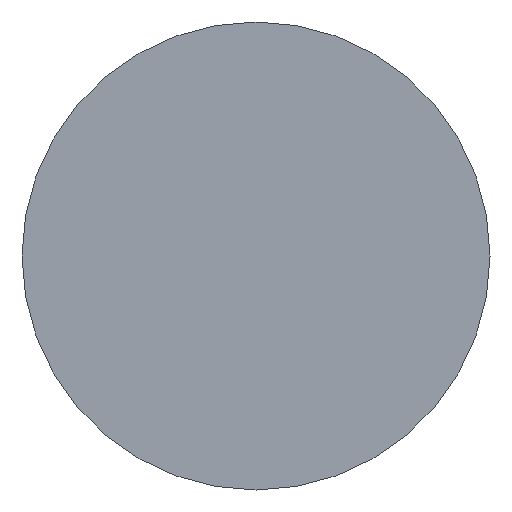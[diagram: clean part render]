
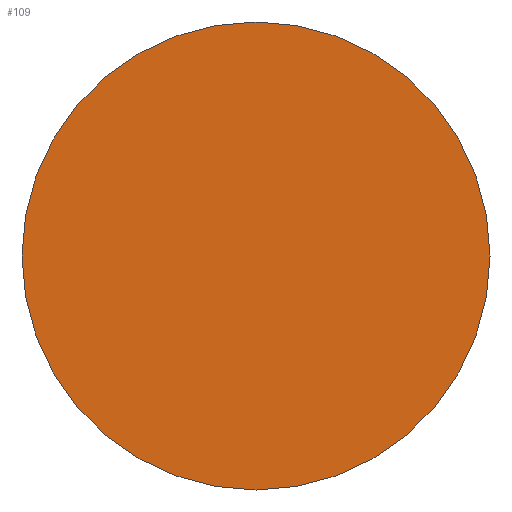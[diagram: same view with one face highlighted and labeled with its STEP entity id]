
A CAD part, front view. The second image highlights one B-rep face of the part: STEP entity #109.
In plain terms, the highlighted planar face has unit normal (0, -1, 0).
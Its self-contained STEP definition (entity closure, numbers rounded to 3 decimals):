
#31 = CYLINDRICAL_SURFACE('',#32,10.);
#32 = AXIS2_PLACEMENT_3D('',#33,#34,#35);
#33 = CARTESIAN_POINT('',(278.258,-138.913,15.828
    ));
#34 = DIRECTION('',(0.,1.,0.));
#35 = DIRECTION('',(0.,-0.,1.));
#56 = VERTEX_POINT('',#57);
#57 = CARTESIAN_POINT('',(278.258,-138.913,25.828
    ));
#78 = EDGE_CURVE('',#56,#56,#79,.T.);
#79 = SURFACE_CURVE('',#80,(#85,#92),.PCURVE_S1.);
#80 = CIRCLE('',#81,10.);
#81 = AXIS2_PLACEMENT_3D('',#82,#83,#84);
#82 = CARTESIAN_POINT('',(278.258,-138.913,15.828
    ));
#83 = DIRECTION('',(0.,1.,0.));
#84 = DIRECTION('',(0.,-0.,1.));
#85 = PCURVE('',#31,#86);
#86 = DEFINITIONAL_REPRESENTATION('',(#87),#91);
#87 = LINE('',#88,#89);
#88 = CARTESIAN_POINT('',(0.,0.));
#89 = VECTOR('',#90,1.);
#90 = DIRECTION('',(1.,0.));
#91 = ( GEOMETRIC_REPRESENTATION_CONTEXT(2) 
PARAMETRIC_REPRESENTATION_CONTEXT() REPRESENTATION_CONTEXT('2D SPACE',''
  ) );
#92 = PCURVE('',#93,#98);
#93 = PLANE('',#94);
#94 = AXIS2_PLACEMENT_3D('',#95,#96,#97);
#95 = CARTESIAN_POINT('',(278.258,-138.913,15.828
    ));
#96 = DIRECTION('',(0.,1.,0.));
#97 = DIRECTION('',(0.,-0.,1.));
#98 = DEFINITIONAL_REPRESENTATION('',(#99),#103);
#99 = CIRCLE('',#100,10.);
#100 = AXIS2_PLACEMENT_2D('',#101,#102);
#101 = CARTESIAN_POINT('',(0.,0.));
#102 = DIRECTION('',(1.,0.));
#103 = ( GEOMETRIC_REPRESENTATION_CONTEXT(2) 
PARAMETRIC_REPRESENTATION_CONTEXT() REPRESENTATION_CONTEXT('2D SPACE',''
  ) );
#109 = ADVANCED_FACE('',(#110),#93,.F.);
#110 = FACE_BOUND('',#111,.T.);
#111 = EDGE_LOOP('',(#112));
#112 = ORIENTED_EDGE('',*,*,#78,.F.);
